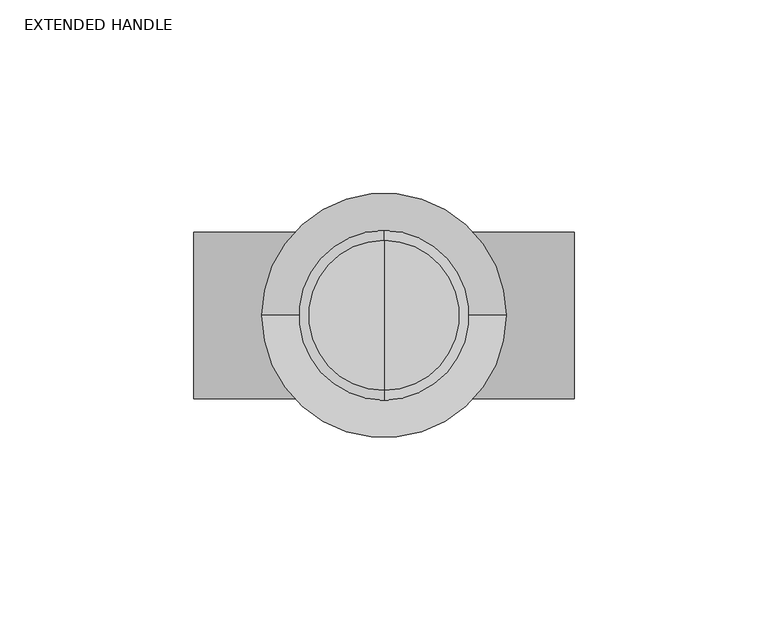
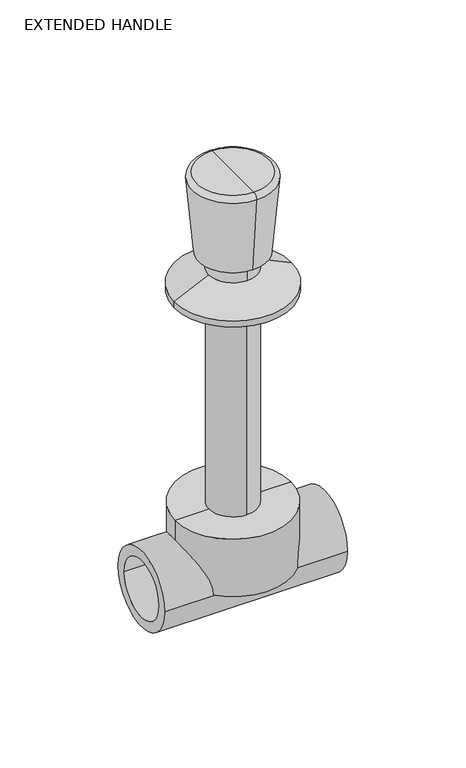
"""IFC4 building model written with IfcOpenShell, lengths in millimetres: valve geometry, Aquatherm - Concealed Valve Extended With Handle : EXTENDED HANDLE."""

from ifc_helpers import new_model, si_unit, point, frame, origin, origin_2d, place, context, project, spatial, polyline, circle_curve, ellipse_curve, trimmed, segment, composite_curve, outline, extrude, source, transform, mapped, element, save
from ifc_brep_helpers import plane_surface, cylinder_surface, revolved_surface, advanced_brep


def extended_handle_f9865267(model_context):
    return source(origin(), model_context, "Body", "SolidModel", [
        advanced_brep(
        [(0.0, 19.3406564, 218.948), (0.0, -19.3406564, 218.948), (0.0, 0.0, 218.948), (0.0, 21.870991, 216.1866244), (0.0, -21.870991, 216.1866244), (0.0, 18.2125979, 174.371), (0.0, -18.2125979, 174.371), (0.0, 12.9442633, 174.371), (0.0, -12.9442633, 174.371), (0.0, 12.9442633, 165.161595), (0.0, -12.9442633, 165.161595), (0.0, 0.0, 165.161595)],
        [
            (0, 1, circle_curve(frame((0.0, 0.0, 218.948), z_axis=(0.0, 0.0, 1.0), x_axis=(0.0, -1.0, 0.0)), 19.3406564)),
            (1, 2),
            (2, 0),
            (1, 0, circle_curve(frame((0.0, 0.0, 218.948), z_axis=(0.0, 0.0, 1.0), x_axis=(0.0, -1.0, 0.0)), 19.3406564)),
            (3, 4, circle_curve(frame((0.0, 0.0, 216.1866244), z_axis=(0.0, 0.0, 1.0), x_axis=(0.0, -1.0, 0.0)), 21.870991)),
            (4, 1, circle_curve(frame((0.0, -19.3406564, 216.408), z_axis=(-1.0, 0.0, 0.0), x_axis=(0.0, -1.0, 0.0)), 2.54)),
            (0, 3, circle_curve(frame((0.0, 19.3406564, 216.408), z_axis=(-1.0, 0.0, 0.0), x_axis=(0.0, 1.0, 0.0)), 2.54)),
            (4, 3, circle_curve(frame((0.0, 0.0, 216.1866244), z_axis=(0.0, 0.0, 1.0), x_axis=(0.0, -1.0, 0.0)), 21.870991)),
            (5, 6, circle_curve(frame((0.0, 0.0, 174.371), z_axis=(0.0, 0.0, 1.0), x_axis=(0.0, -1.0, 0.0)), 18.2125979)),
            (6, 4),
            (3, 5),
            (6, 5, circle_curve(frame((0.0, 0.0, 174.371), z_axis=(0.0, 0.0, 1.0), x_axis=(0.0, -1.0, 0.0)), 18.2125979)),
            (7, 8, circle_curve(frame((0.0, 0.0, 174.371), z_axis=(0.0, 0.0, 1.0), x_axis=(0.0, -1.0, 0.0)), 12.9442633)),
            (8, 6),
            (5, 7),
            (8, 7, circle_curve(frame((0.0, 0.0, 174.371), z_axis=(0.0, 0.0, 1.0), x_axis=(0.0, -1.0, 0.0)), 12.9442633)),
            (9, 10, circle_curve(frame((0.0, 0.0, 165.161595), z_axis=(0.0, 0.0, 1.0), x_axis=(0.0, -1.0, 0.0)), 12.9442633)),
            (10, 8),
            (7, 9),
            (10, 9, circle_curve(frame((0.0, 0.0, 165.161595), z_axis=(0.0, 0.0, 1.0), x_axis=(0.0, -1.0, 0.0)), 12.9442633)),
            (11, 10),
            (9, 11),
        ],
        [
            plane_surface(frame((0.0, 0.0, 218.948), z_axis=(0.0, 0.0, 1.0), x_axis=(0.0, -1.0, 0.0))),
            revolved_surface(trimmed(ellipse_curve(frame((0.0, -19.3406564, 216.408), z_axis=(1.0, 0.0, 0.0), x_axis=(0.0, -1.0, 0.0)), 2.54, 2.54), [point((0.0, -19.3406564, 218.948))], [point((0.0, -21.870991, 216.1866244))], True, "CARTESIAN"), (0.0, 0.0, 241.5276097), (0.0, 0.0, -1.0)),
            revolved_surface(polyline([(0.0, -21.870991, 216.1866244), (0.0, -18.2125979, 174.371)]), (0.0, 0.0, 241.5276097), (0.0, 0.0, -1.0)),
            plane_surface(frame((0.0, 0.0, 174.371), z_axis=(0.0, 0.0, -1.0), x_axis=(0.0, -1.0, 0.0))),
            cylinder_surface(frame((0.0, 0.0, 241.5276097), z_axis=(0.0, 0.0, -1.0), x_axis=(0.0, -1.0, 0.0)), 12.9442633),
            plane_surface(frame((0.0, 0.0, 165.161595), z_axis=(0.0, 0.0, -1.0), x_axis=(0.0, -1.0, 0.0))),
        ],
        [
            (0, [[1, 2, 3]]),
            (0, [[4, -3, -2]]),
            (1, [[5, 6, -1, 7]]),
            (1, [[8, -7, -4, -6]]),
            (2, [[9, 10, -5, 11]]),
            (2, [[12, -11, -8, -10]]),
            (3, [[13, 14, -9, 15]]),
            (3, [[16, -15, -12, -14]]),
            (4, [[17, 18, -13, 19]]),
            (4, [[20, -19, -16, -18]]),
            (5, [[21, -17, 22]]),
            (5, [[-22, -20, -21]]),
        ],
    ),
        advanced_brep(
        [(-12.827, 0.0, 165.161595), (12.827, 0.0, 165.161595), (-31.496, 0.0, 156.4597667), (31.496, 0.0, 156.4597667)],
        [
            (0, 1, circle_curve(frame((0.0, 0.0, 165.161595), z_axis=(0.0, 0.0, 1.0), x_axis=(-1.0, 0.0, 0.0)), 12.827)),
            (1, 0, circle_curve(frame((0.0, 0.0, 165.161595), z_axis=(0.0, 0.0, 1.0), x_axis=(1.0, 0.0, 0.0)), 12.827)),
            (2, 3, circle_curve(frame((0.0, 0.0, 156.4597667), z_axis=(0.0, 0.0, -1.0), x_axis=(1.0, 0.0, 0.0)), 31.496)),
            (3, 2, circle_curve(frame((0.0, 0.0, 156.4597667), z_axis=(0.0, 0.0, -1.0), x_axis=(-1.0, 0.0, 0.0)), 31.496)),
            (3, 1),
            (0, 2),
        ],
        [
            plane_surface(frame((0.0, 0.0, 165.161595), z_axis=(0.0, 0.0, 1.0), x_axis=(0.0, -1.0, 0.0))),
            plane_surface(frame((0.0, 0.0, 156.4597667), z_axis=(0.0, 0.0, -1.0), x_axis=(0.0, -1.0, 0.0))),
            revolved_surface(polyline([(-12.827000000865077, 0.0, 165.161595), (-31.496, 0.0, 156.4597667)]), (0.0, 0.0, 171.1404022), (0.0, 0.0, -1.0)),
            revolved_surface(polyline([(12.827000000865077, 0.0, 165.161595), (31.496, 0.0, 156.4597667)]), (0.0, 0.0, 171.1404022), (0.0, 0.0, -1.0)),
        ],
        [
            (0, [[1, 2]]),
            (1, [[3, 4]]),
            (2, [[-4, 5, -1, 6]]),
            (3, [[-3, -6, -2, -5]]),
        ],
    ),
        extrude(outline(composite_curve([segment(trimmed(circle_curve(origin_2d(), 31.496), [point((-31.496, 0.0))], [point((31.496, 0.0))], False, "CARTESIAN"), True, "CONTINUOUS"), segment(trimmed(circle_curve(origin_2d(), 31.496), [point((31.496, 0.0))], [point((-31.496, 0.0))], False, "CARTESIAN"), True, "CONTINUOUS")], self_intersect=False)), frame((0.0, 0.0, 152.908), z_axis=(0.0, 0.0, 1.0), x_axis=(1.0, 0.0, 0.0)), (0.0, 0.0, 1.0), 3.5517667),
        extrude(outline(composite_curve([segment(trimmed(circle_curve(origin_2d(), 12.827), [point((0.0, 12.827))], [point((0.0, -12.827))], False, "CARTESIAN"), True, "CONTINUOUS"), segment(trimmed(circle_curve(origin_2d(), 12.827), [point((0.0, -12.827))], [point((0.0, 12.827))], False, "CARTESIAN"), True, "CONTINUOUS")], self_intersect=False)), frame((0.0, 0.0, 32.512), z_axis=(0.0, 0.0, 1.0), x_axis=(1.0, 0.0, 0.0)), (0.0, 0.0, 1.0), 120.396),
        advanced_brep(
        [(0.0, 0.0, 32.512), (30.988, 0.0, 32.512), (-30.988, 0.0, 32.512), (-30.988, 0.0, 0.0), (30.988, 0.0, 0.0), (0.0, 0.0, 0.0)],
        [
            (0, 1),
            (1, 2, circle_curve(frame((0.0, 0.0, 32.512), z_axis=(0.0, 0.0, 1.0), x_axis=(1.0, 0.0, 0.0)), 30.988)),
            (2, 0),
            (2, 1, circle_curve(frame((0.0, 0.0, 32.512), z_axis=(0.0, 0.0, 1.0), x_axis=(1.0, 0.0, 0.0)), 30.988)),
            (3, 4, circle_curve(frame((0.0, 0.0, 0.0), z_axis=(0.0, 0.0, -1.0), x_axis=(1.0, 0.0, 0.0)), 30.988)),
            (4, 5),
            (5, 3),
            (4, 3, circle_curve(frame((0.0, 0.0, 0.0), z_axis=(0.0, 0.0, -1.0), x_axis=(1.0, 0.0, 0.0)), 30.988)),
            (1, 4),
            (3, 2),
        ],
        [
            plane_surface(frame((0.0, 0.0, 32.512), z_axis=(0.0, 0.0, 1.0), x_axis=(1.0, 0.0, 0.0))),
            plane_surface(frame((0.0, 0.0, 0.0), z_axis=(0.0, 0.0, -1.0), x_axis=(1.0, 0.0, 0.0))),
            cylinder_surface(frame((0.0, 0.0, 35.6334888), z_axis=(0.0, 0.0, 1.0), x_axis=(1.0, 0.0, 0.0)), 30.988),
        ],
        [
            (0, [[1, 2, 3]]),
            (0, [[-3, 4, -1]]),
            (1, [[5, 6, 7]]),
            (1, [[8, -7, -6]]),
            (2, [[-2, 9, -5, 10]]),
            (2, [[-4, -10, -8, -9]]),
        ],
    ),
        extrude(outline(composite_curve([segment(trimmed(circle_curve(origin_2d(), 21.463), [point((-21.463, 0.0))], [point((21.463, 0.0))], False, "CARTESIAN"), True, "CONTINUOUS"), segment(trimmed(circle_curve(origin_2d(), 21.463), [point((21.463, 0.0))], [point((-21.463, 0.0))], False, "CARTESIAN"), True, "CONTINUOUS")], self_intersect=False), holes=[composite_curve([segment(trimmed(circle_curve(origin_2d(), 16.002), [point((-16.002, 0.0))], [point((16.002, 0.0))], True, "CARTESIAN"), True, "CONTINUOUS"), segment(trimmed(circle_curve(origin_2d(), 16.002), [point((16.002, 0.0))], [point((-16.002, 0.0))], True, "CARTESIAN"), True, "CONTINUOUS")], self_intersect=False)]), frame((-49.022, 0.0, 0.0), z_axis=(1.0, 0.0, 0.0), x_axis=(0.0, 1.0, 0.0)), (0.0, 0.0, 1.0), 98.044),
    ])


if __name__ == "__main__":
    model = new_model("IFC4")
    model_context = context("Model", 3, world=origin())
    ifc_project = project(units=[si_unit("LENGTHUNIT", "METRE", prefix="MILLI")], contexts=[model_context])
    site = spatial("IfcSite", under=ifc_project)
    building = spatial("IfcBuilding", under=site)
    placement = place(None, origin())
    extended_handle_shape = extended_handle_f9865267(model_context)
    element("IfcValve", 1, ObjectType="Aquatherm - Concealed Valve Extended With Handle : EXTENDED HANDLE", at=placement, inside=building, context=model_context, shape_type="MappedRepresentation", body=[
        mapped(extended_handle_shape, transform((0.0, 0.0, 0.0), x_axis=(1.0, 0.0, 0.0), y_axis=(0.0, 1.0, 0.0), z_axis=(0.0, 0.0, 1.0))),
    ])
    save(model, "model.ifc")
